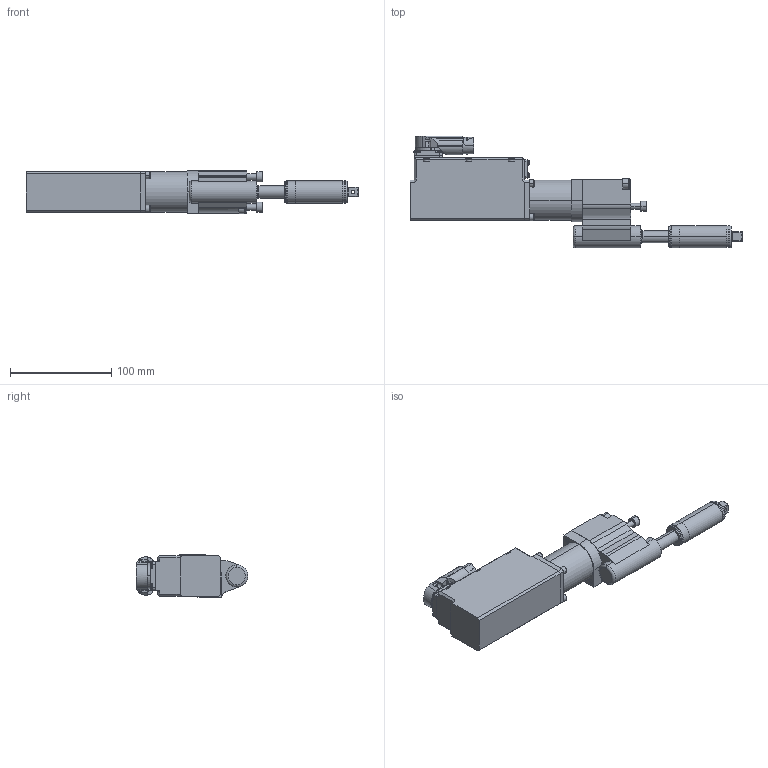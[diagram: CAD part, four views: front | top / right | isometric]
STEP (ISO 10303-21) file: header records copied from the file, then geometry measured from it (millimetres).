
FILE_DESCRIPTION (( 'STEP AP214' ), '1' );
FILE_NAME ('70121604_KSX1025OF25.STEP', '2020-01-15T13:27:10', ( 'admin' ), ( '' ), 'SwSTEP 2.0', 'SolidWorks 2017', '' );
FILE_SCHEMA (( 'AUTOMOTIVE_DESIGN' ));
Length unit declared in the file: millimetre
Products named in the file (10): 70111011; 70111000_KSX1_Stecker_vorne; 70111180_Pos_vorne; 70111180; 70111180_2; 70111000; 70121604_KSX1025OF25; 7002387_3; 70111043; 70111006
Assembly tree (9 placements, depth 4):
  70121604_KSX1025OF25
    70111000_KSX1_Stecker_vorne
      70111000
      70111180_Pos_vorne
        70111180_2
        70111180
    70111011
    70111006
    70111043
    7002387_3
Bounding box: 327.7 x 110.39 x 42.53 mm (x, y, z)
Volume: 510518.1 mm3; surface area: 97430.2 mm2
Topology: 11 solids, 13 shells, 1912 faces, 4881 edges, 3081 vertices
Faces by surface type: cylinder 767, plane 619, cone 316, torus 119, sphere 48, bspline 43
Entity records: 69500 total; most frequent: CARTESIAN_POINT 16499, ORIENTED_EDGE 9622, DIRECTION 9259, EDGE_CURVE 4811, AXIS2_PLACEMENT_3D 3686, VERTEX_POINT 3081, EDGE_LOOP 2092, ADVANCED_FACE 1912
